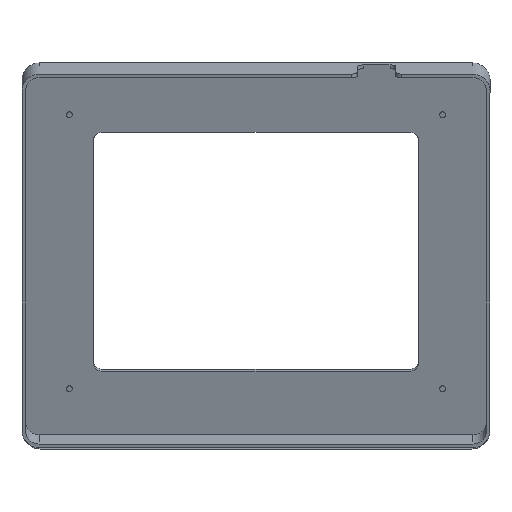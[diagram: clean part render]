
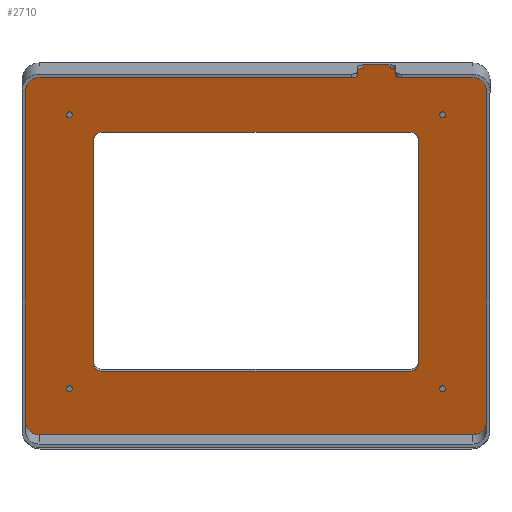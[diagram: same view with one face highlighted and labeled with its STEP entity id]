
A CAD part, top view. The second image highlights one B-rep face of the part: STEP entity #2710.
In plain terms, the highlighted planar face has unit normal (0, -0.342, 0.94).
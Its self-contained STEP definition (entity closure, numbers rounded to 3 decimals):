
#237=CIRCLE('',#3020,7.);
#238=CIRCLE('',#3023,7.);
#239=CIRCLE('',#3025,7.);
#242=CIRCLE('',#3030,7.);
#244=CIRCLE('',#3034,5.);
#246=CIRCLE('',#3038,5.);
#248=CIRCLE('',#3042,5.);
#250=CIRCLE('',#3046,5.);
#288=FACE_BOUND('',#626,.T.);
#289=FACE_BOUND('',#627,.T.);
#290=FACE_BOUND('',#628,.T.);
#291=FACE_BOUND('',#629,.T.);
#292=FACE_BOUND('',#630,.T.);
#446=FACE_OUTER_BOUND('',#625,.T.);
#625=EDGE_LOOP('',(#2433,#2434,#2435,#2436,#2437,#2438,#2439,#2440,#2441,
#2442,#2443,#2444));
#626=EDGE_LOOP('',(#2445));
#627=EDGE_LOOP('',(#2446));
#628=EDGE_LOOP('',(#2447));
#629=EDGE_LOOP('',(#2448));
#630=EDGE_LOOP('',(#2449,#2450,#2451,#2452,#2453,#2454,#2455,#2456));
#796=LINE('',#5123,#996);
#800=LINE('',#5132,#1000);
#805=LINE('',#5149,#1005);
#808=LINE('',#5157,#1008);
#813=LINE('',#5172,#1013);
#817=LINE('',#5184,#1017);
#821=LINE('',#5196,#1021);
#824=LINE('',#5205,#1024);
#826=LINE('',#5220,#1026);
#829=LINE('',#5229,#1029);
#830=LINE('',#5232,#1030);
#831=LINE('',#5233,#1031);
#996=VECTOR('',#3799,10.);
#1000=VECTOR('',#3809,10.);
#1005=VECTOR('',#3828,10.);
#1008=VECTOR('',#3837,10.);
#1013=VECTOR('',#3850,10.);
#1017=VECTOR('',#3862,10.);
#1021=VECTOR('',#3874,10.);
#1024=VECTOR('',#3885,10.);
#1026=VECTOR('',#3901,10.);
#1029=VECTOR('',#3910,10.);
#1030=VECTOR('',#3913,10.);
#1031=VECTOR('',#3914,10.);
#1085=ELLIPSE('',#3059,1.596,1.5);
#1086=ELLIPSE('',#3060,1.596,1.5);
#1087=ELLIPSE('',#3061,1.596,1.5);
#1088=ELLIPSE('',#3062,1.596,1.5);
#1285=VERTEX_POINT('',#5121);
#1286=VERTEX_POINT('',#5122);
#1287=VERTEX_POINT('',#5127);
#1288=VERTEX_POINT('',#5131);
#1289=VERTEX_POINT('',#5135);
#1290=VERTEX_POINT('',#5139);
#1293=VERTEX_POINT('',#5147);
#1294=VERTEX_POINT('',#5151);
#1295=VERTEX_POINT('',#5152);
#1298=VERTEX_POINT('',#5162);
#1299=VERTEX_POINT('',#5164);
#1301=VERTEX_POINT('',#5170);
#1303=VERTEX_POINT('',#5176);
#1305=VERTEX_POINT('',#5182);
#1307=VERTEX_POINT('',#5188);
#1309=VERTEX_POINT('',#5194);
#1311=VERTEX_POINT('',#5200);
#1317=VERTEX_POINT('',#5219);
#1320=VERTEX_POINT('',#5227);
#1321=VERTEX_POINT('',#5231);
#1322=VERTEX_POINT('',#5234);
#1323=VERTEX_POINT('',#5236);
#1324=VERTEX_POINT('',#5238);
#1325=VERTEX_POINT('',#5240);
#1648=EDGE_CURVE('',#1285,#1286,#796,.T.);
#1651=EDGE_CURVE('',#1287,#1285,#237,.T.);
#1653=EDGE_CURVE('',#1288,#1287,#800,.T.);
#1655=EDGE_CURVE('',#1289,#1288,#238,.T.);
#1657=EDGE_CURVE('',#1286,#1290,#239,.T.);
#1662=EDGE_CURVE('',#1290,#1293,#805,.T.);
#1663=EDGE_CURVE('',#1294,#1295,#242,.T.);
#1666=EDGE_CURVE('',#1295,#1289,#808,.T.);
#1669=EDGE_CURVE('',#1299,#1298,#244,.T.);
#1673=EDGE_CURVE('',#1298,#1301,#813,.T.);
#1676=EDGE_CURVE('',#1301,#1303,#246,.T.);
#1679=EDGE_CURVE('',#1303,#1305,#817,.T.);
#1682=EDGE_CURVE('',#1305,#1307,#248,.T.);
#1685=EDGE_CURVE('',#1307,#1309,#821,.T.);
#1688=EDGE_CURVE('',#1309,#1311,#250,.T.);
#1690=EDGE_CURVE('',#1311,#1299,#824,.T.);
#1697=EDGE_CURVE('',#1317,#1294,#826,.T.);
#1702=EDGE_CURVE('',#1320,#1293,#829,.T.);
#1703=EDGE_CURVE('',#1317,#1321,#830,.T.);
#1704=EDGE_CURVE('',#1321,#1320,#831,.T.);
#1705=EDGE_CURVE('',#1322,#1322,#1085,.T.);
#1706=EDGE_CURVE('',#1323,#1323,#1086,.T.);
#1707=EDGE_CURVE('',#1324,#1324,#1087,.T.);
#1708=EDGE_CURVE('',#1325,#1325,#1088,.T.);
#2433=ORIENTED_EDGE('',*,*,#1703,.F.);
#2434=ORIENTED_EDGE('',*,*,#1697,.T.);
#2435=ORIENTED_EDGE('',*,*,#1663,.T.);
#2436=ORIENTED_EDGE('',*,*,#1666,.T.);
#2437=ORIENTED_EDGE('',*,*,#1655,.T.);
#2438=ORIENTED_EDGE('',*,*,#1653,.T.);
#2439=ORIENTED_EDGE('',*,*,#1651,.T.);
#2440=ORIENTED_EDGE('',*,*,#1648,.T.);
#2441=ORIENTED_EDGE('',*,*,#1657,.T.);
#2442=ORIENTED_EDGE('',*,*,#1662,.T.);
#2443=ORIENTED_EDGE('',*,*,#1702,.F.);
#2444=ORIENTED_EDGE('',*,*,#1704,.F.);
#2445=ORIENTED_EDGE('',*,*,#1705,.T.);
#2446=ORIENTED_EDGE('',*,*,#1706,.T.);
#2447=ORIENTED_EDGE('',*,*,#1707,.T.);
#2448=ORIENTED_EDGE('',*,*,#1708,.T.);
#2449=ORIENTED_EDGE('',*,*,#1690,.T.);
#2450=ORIENTED_EDGE('',*,*,#1669,.T.);
#2451=ORIENTED_EDGE('',*,*,#1673,.T.);
#2452=ORIENTED_EDGE('',*,*,#1676,.T.);
#2453=ORIENTED_EDGE('',*,*,#1679,.T.);
#2454=ORIENTED_EDGE('',*,*,#1682,.T.);
#2455=ORIENTED_EDGE('',*,*,#1685,.T.);
#2456=ORIENTED_EDGE('',*,*,#1688,.T.);
#2553=PLANE('',#3058);
#2710=ADVANCED_FACE('',(#446,#288,#289,#290,#291,#292),#2553,.T.);
#3020=AXIS2_PLACEMENT_3D('',#5128,#3804,#3805);
#3023=AXIS2_PLACEMENT_3D('',#5136,#3813,#3814);
#3025=AXIS2_PLACEMENT_3D('',#5140,#3818,#3819);
#3030=AXIS2_PLACEMENT_3D('',#5153,#3831,#3832);
#3034=AXIS2_PLACEMENT_3D('',#5165,#3843,#3844);
#3038=AXIS2_PLACEMENT_3D('',#5178,#3856,#3857);
#3042=AXIS2_PLACEMENT_3D('',#5190,#3868,#3869);
#3046=AXIS2_PLACEMENT_3D('',#5202,#3880,#3881);
#3058=AXIS2_PLACEMENT_3D('',#5230,#3911,#3912);
#3059=AXIS2_PLACEMENT_3D('',#5235,#3915,#3916);
#3060=AXIS2_PLACEMENT_3D('',#5237,#3917,#3918);
#3061=AXIS2_PLACEMENT_3D('',#5239,#3919,#3920);
#3062=AXIS2_PLACEMENT_3D('',#5241,#3921,#3922);
#3799=DIRECTION('',(0.,0.94,0.342));
#3804=DIRECTION('center_axis',(0.,-0.342,0.94));
#3805=DIRECTION('ref_axis',(0.,-0.94,-0.342));
#3809=DIRECTION('',(1.,0.,0.));
#3813=DIRECTION('center_axis',(0.,-0.342,0.94));
#3814=DIRECTION('ref_axis',(-1.,0.,0.));
#3818=DIRECTION('center_axis',(0.,-0.342,0.94));
#3819=DIRECTION('ref_axis',(1.,0.,0.));
#3828=DIRECTION('',(-1.,0.,0.));
#3831=DIRECTION('center_axis',(0.,-0.342,0.94));
#3832=DIRECTION('ref_axis',(0.,0.94,0.342));
#3837=DIRECTION('',(0.,-0.94,-0.342));
#3843=DIRECTION('center_axis',(0.,0.342,-0.94));
#3844=DIRECTION('ref_axis',(-1.,0.,0.));
#3850=DIRECTION('',(0.,0.94,0.342));
#3856=DIRECTION('center_axis',(0.,0.342,-0.94));
#3857=DIRECTION('ref_axis',(0.,0.94,0.342));
#3862=DIRECTION('',(1.,0.,0.));
#3868=DIRECTION('center_axis',(0.,0.342,-0.94));
#3869=DIRECTION('ref_axis',(1.,0.,0.));
#3874=DIRECTION('',(0.,-0.94,-0.342));
#3880=DIRECTION('center_axis',(0.,0.342,-0.94));
#3881=DIRECTION('ref_axis',(0.,-0.94,-0.342));
#3885=DIRECTION('',(-1.,0.,0.));
#3901=DIRECTION('',(-1.,0.,0.));
#3910=DIRECTION('',(0.,-0.94,-0.342));
#3911=DIRECTION('center_axis',(0.,-0.342,0.94));
#3912=DIRECTION('ref_axis',(1.,0.,0.));
#3913=DIRECTION('',(0.,0.94,0.342));
#3914=DIRECTION('',(1.,0.,0.));
#3915=DIRECTION('center_axis',(0.,0.342,-0.94));
#3916=DIRECTION('ref_axis',(0.,-0.94,-0.342));
#3917=DIRECTION('center_axis',(0.,0.342,-0.94));
#3918=DIRECTION('ref_axis',(0.,-0.94,-0.342));
#3919=DIRECTION('center_axis',(0.,0.342,-0.94));
#3920=DIRECTION('ref_axis',(0.,-0.94,-0.342));
#3921=DIRECTION('center_axis',(0.,0.342,-0.94));
#3922=DIRECTION('ref_axis',(0.,-0.94,-0.342));
#5121=CARTESIAN_POINT('',(119.5,-95.569,5.897));
#5122=CARTESIAN_POINT('',(119.5,81.093,70.197));
#5123=CARTESIAN_POINT('',(119.5,-95.569,5.897));
#5127=CARTESIAN_POINT('',(112.5,-102.147,3.503));
#5128=CARTESIAN_POINT('Origin',(112.5,-95.569,5.897));
#5131=CARTESIAN_POINT('',(-112.5,-102.147,3.503));
#5132=CARTESIAN_POINT('',(-112.5,-102.147,3.503));
#5135=CARTESIAN_POINT('',(-119.5,-95.569,5.897));
#5136=CARTESIAN_POINT('Origin',(-112.5,-95.569,5.897));
#5139=CARTESIAN_POINT('',(112.5,87.671,72.591));
#5140=CARTESIAN_POINT('Origin',(112.5,81.093,70.197));
#5147=CARTESIAN_POINT('',(69.5,87.671,72.591));
#5149=CARTESIAN_POINT('',(112.5,87.671,72.591));
#5151=CARTESIAN_POINT('',(-112.5,87.671,72.591));
#5152=CARTESIAN_POINT('',(-119.5,81.093,70.197));
#5153=CARTESIAN_POINT('Origin',(-112.5,81.093,70.197));
#5157=CARTESIAN_POINT('',(-119.5,81.093,70.197));
#5162=CARTESIAN_POINT('',(-84.5,-64.559,17.184));
#5164=CARTESIAN_POINT('',(-79.5,-69.257,15.474));
#5165=CARTESIAN_POINT('Origin',(-79.5,-64.559,17.184));
#5170=CARTESIAN_POINT('',(-84.5,50.084,58.91));
#5172=CARTESIAN_POINT('',(-84.5,-35.898,27.616));
#5176=CARTESIAN_POINT('',(-79.5,54.782,60.62));
#5178=CARTESIAN_POINT('Origin',(-79.5,50.084,58.91));
#5182=CARTESIAN_POINT('',(79.5,54.782,60.62));
#5184=CARTESIAN_POINT('',(-39.75,54.782,60.62));
#5188=CARTESIAN_POINT('',(84.5,50.084,58.91));
#5190=CARTESIAN_POINT('Origin',(79.5,50.084,58.91));
#5194=CARTESIAN_POINT('',(84.5,-64.559,17.184));
#5196=CARTESIAN_POINT('',(84.5,21.423,48.479));
#5200=CARTESIAN_POINT('',(79.5,-69.257,15.474));
#5202=CARTESIAN_POINT('Origin',(79.5,-64.559,17.184));
#5205=CARTESIAN_POINT('',(39.75,-69.257,15.474));
#5219=CARTESIAN_POINT('',(55.5,87.671,72.591));
#5220=CARTESIAN_POINT('',(112.5,87.671,72.591));
#5227=CARTESIAN_POINT('',(69.5,89.551,73.275));
#5229=CARTESIAN_POINT('',(69.5,40.217,55.319));
#5230=CARTESIAN_POINT('Origin',(0.,-7.238,
38.047));
#5231=CARTESIAN_POINT('',(55.5,89.551,73.275));
#5232=CARTESIAN_POINT('',(55.5,40.217,55.319));
#5233=CARTESIAN_POINT('',(92.417,89.551,73.275));
#5234=CARTESIAN_POINT('',(-95.25,63.738,63.88));
#5235=CARTESIAN_POINT('Origin',(-96.75,63.738,63.88));
#5236=CARTESIAN_POINT('',(98.25,-78.238,12.205));
#5237=CARTESIAN_POINT('Origin',(96.75,-78.238,12.205));
#5238=CARTESIAN_POINT('',(-95.25,-78.238,12.205));
#5239=CARTESIAN_POINT('Origin',(-96.75,-78.238,12.205));
#5240=CARTESIAN_POINT('',(98.25,63.738,63.88));
#5241=CARTESIAN_POINT('Origin',(96.75,63.738,63.88));
